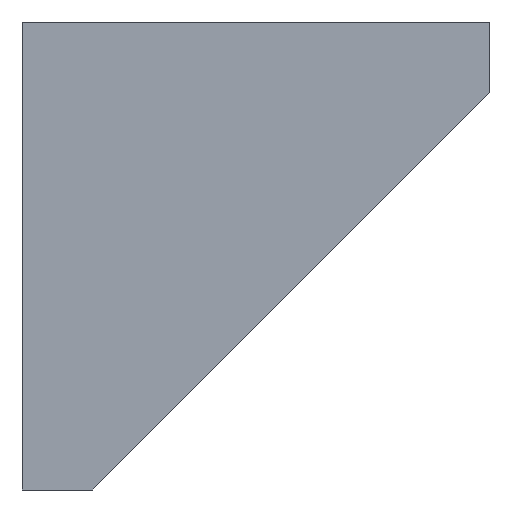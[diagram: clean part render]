
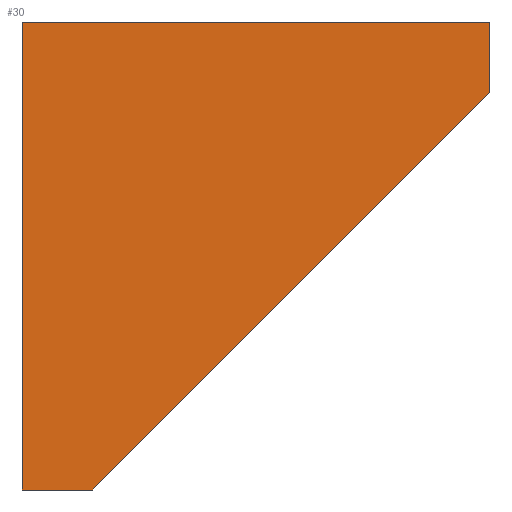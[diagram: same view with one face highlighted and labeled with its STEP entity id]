
A CAD part, left-side view. The second image highlights one B-rep face of the part: STEP entity #30.
In plain terms, the highlighted planar face has unit normal (-1, 0, 0) as drawn and (1, 0, 0) by its records, which use the part's own axes.
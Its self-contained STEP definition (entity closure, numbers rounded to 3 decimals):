
#30=ADVANCED_FACE('',(#54),#616,.T.);
#54=FACE_OUTER_BOUND('',#75,.T.);
#75=EDGE_LOOP('',(#125,#126,#127,#128,#129));
#125=ORIENTED_EDGE('',*,*,#418,.F.);
#126=ORIENTED_EDGE('',*,*,#424,.F.);
#127=ORIENTED_EDGE('',*,*,#433,.F.);
#128=ORIENTED_EDGE('',*,*,#436,.F.);
#129=ORIENTED_EDGE('',*,*,#438,.F.);
#198=PCURVE('',#608,#286);
#204=PCURVE('',#609,#292);
#214=PCURVE('',#610,#302);
#218=PCURVE('',#611,#306);
#222=PCURVE('',#612,#310);
#231=PCURVE('',#616,#319);
#232=PCURVE('',#616,#320);
#233=PCURVE('',#616,#321);
#234=PCURVE('',#616,#322);
#235=PCURVE('',#616,#323);
#286=DEFINITIONAL_REPRESENTATION('',(#465),#1319);
#292=DEFINITIONAL_REPRESENTATION('',(#475),#1319);
#302=DEFINITIONAL_REPRESENTATION('',(#490),#1319);
#306=DEFINITIONAL_REPRESENTATION('',(#497),#1319);
#310=DEFINITIONAL_REPRESENTATION('',(#503),#1319);
#319=DEFINITIONAL_REPRESENTATION('',(#515),#1319);
#320=DEFINITIONAL_REPRESENTATION('',(#516),#1319);
#321=DEFINITIONAL_REPRESENTATION('',(#517),#1319);
#322=DEFINITIONAL_REPRESENTATION('',(#518),#1319);
#323=DEFINITIONAL_REPRESENTATION('',(#519),#1319);
#374=SURFACE_CURVE('',#464,(#198,#231),.PCURVE_S1.);
#380=SURFACE_CURVE('',#474,(#204,#232),.PCURVE_S1.);
#389=SURFACE_CURVE('',#489,(#214,#233),.PCURVE_S1.);
#392=SURFACE_CURVE('',#496,(#218,#234),.PCURVE_S1.);
#394=SURFACE_CURVE('',#502,(#222,#235),.PCURVE_S1.);
#418=EDGE_CURVE('',#576,#577,#374,.T.);
#424=EDGE_CURVE('',#579,#576,#380,.T.);
#433=EDGE_CURVE('',#581,#579,#389,.T.);
#436=EDGE_CURVE('',#583,#581,#392,.T.);
#438=EDGE_CURVE('',#577,#583,#394,.T.);
#464=B_SPLINE_CURVE_WITH_KNOTS('',1,(#819,#820),.UNSPECIFIED.,.F.,.F.,(2,
2),(-30.,0.),.UNSPECIFIED.);
#465=B_SPLINE_CURVE_WITH_KNOTS('',1,(#821,#822),.UNSPECIFIED.,.F.,.F.,(2,
2),(-30.,0.),.UNSPECIFIED.);
#474=B_SPLINE_CURVE_WITH_KNOTS('',1,(#883,#884),.UNSPECIFIED.,.F.,.F.,(2,
2),(-60.,-30.),.UNSPECIFIED.);
#475=B_SPLINE_CURVE_WITH_KNOTS('',1,(#885,#886),.UNSPECIFIED.,.F.,.F.,(2,
2),(-60.,-30.),.UNSPECIFIED.);
#489=B_SPLINE_CURVE_WITH_KNOTS('',1,(#1001,#1002),.UNSPECIFIED.,.F.,.F.,
(2,2),(-64.5,-60.),.UNSPECIFIED.);
#490=B_SPLINE_CURVE_WITH_KNOTS('',1,(#1003,#1004),.UNSPECIFIED.,.F.,.F.,
(2,2),(-64.5,-60.),.UNSPECIFIED.);
#496=B_SPLINE_CURVE_WITH_KNOTS('',1,(#1015,#1016),.UNSPECIFIED.,.F.,.F.,
(2,2),(-100.562,-64.5),.UNSPECIFIED.);
#497=B_SPLINE_CURVE_WITH_KNOTS('',1,(#1017,#1018),.UNSPECIFIED.,.F.,.F.,
(2,2),(-100.562,-64.5),.UNSPECIFIED.);
#502=B_SPLINE_CURVE_WITH_KNOTS('',1,(#1027,#1028),.UNSPECIFIED.,.F.,.F.,
(2,2),(-105.062,-100.562),.UNSPECIFIED.);
#503=B_SPLINE_CURVE_WITH_KNOTS('',1,(#1029,#1030),.UNSPECIFIED.,.F.,.F.,
(2,2),(-105.062,-100.562),.UNSPECIFIED.);
#515=B_SPLINE_CURVE_WITH_KNOTS('',1,(#1053,#1054),.UNSPECIFIED.,.F.,.F.,
(2,2),(-30.,0.),.UNSPECIFIED.);
#516=B_SPLINE_CURVE_WITH_KNOTS('',1,(#1055,#1056),.UNSPECIFIED.,.F.,.F.,
(2,2),(-60.,-30.),.UNSPECIFIED.);
#517=B_SPLINE_CURVE_WITH_KNOTS('',1,(#1057,#1058),.UNSPECIFIED.,.F.,.F.,
(2,2),(-64.5,-60.),.UNSPECIFIED.);
#518=B_SPLINE_CURVE_WITH_KNOTS('',1,(#1059,#1060),.UNSPECIFIED.,.F.,.F.,
(2,2),(-100.562,-64.5),.UNSPECIFIED.);
#519=B_SPLINE_CURVE_WITH_KNOTS('',1,(#1061,#1062),.UNSPECIFIED.,.F.,.F.,
(2,2),(-105.062,-100.562),.UNSPECIFIED.);
#576=VERTEX_POINT('',#785);
#577=VERTEX_POINT('',#786);
#579=VERTEX_POINT('',#788);
#581=VERTEX_POINT('',#790);
#583=VERTEX_POINT('',#792);
#608=PLANE('',#639);
#609=PLANE('',#640);
#610=PLANE('',#641);
#611=PLANE('',#642);
#612=PLANE('',#643);
#616=PLANE('',#647);
#639=AXIS2_PLACEMENT_3D('',#664,#652,$);
#640=AXIS2_PLACEMENT_3D('',#665,#653,$);
#641=AXIS2_PLACEMENT_3D('',#666,#654,$);
#642=AXIS2_PLACEMENT_3D('',#667,#655,$);
#643=AXIS2_PLACEMENT_3D('',#668,#656,$);
#647=AXIS2_PLACEMENT_3D('',#780,#660,$);
#652=DIRECTION('',(0.,-1.,0.));
#653=DIRECTION('',(0.,0.,-1.));
#654=DIRECTION('',(0.,1.,0.));
#655=DIRECTION('',(0.,0.707,0.707));
#656=DIRECTION('',(0.,0.,1.));
#660=DIRECTION('',(1.,0.,0.));
#664=CARTESIAN_POINT('',(-735.,15.,-7.));
#665=CARTESIAN_POINT('',(-735.,15.,23.));
#666=CARTESIAN_POINT('',(-735.,-15.,23.));
#667=CARTESIAN_POINT('',(-735.,-15.,18.5));
#668=CARTESIAN_POINT('',(-735.,10.5,-7.));
#780=CARTESIAN_POINT('',(-755.,18.75,-10.75));
#785=CARTESIAN_POINT('',(-755.,15.,23.));
#786=CARTESIAN_POINT('',(-755.,15.,-7.));
#788=CARTESIAN_POINT('',(-755.,-15.,23.));
#790=CARTESIAN_POINT('',(-755.,-15.,18.5));
#792=CARTESIAN_POINT('',(-755.,10.5,-7.));
#819=CARTESIAN_POINT('',(-755.,15.,23.));
#820=CARTESIAN_POINT('',(-755.,15.,-7.));
#821=CARTESIAN_POINT('',(30.,20.));
#822=CARTESIAN_POINT('',(0.,20.));
#883=CARTESIAN_POINT('',(-755.,-15.,23.));
#884=CARTESIAN_POINT('',(-755.,15.,23.));
#885=CARTESIAN_POINT('',(60.,20.));
#886=CARTESIAN_POINT('',(30.,20.));
#1001=CARTESIAN_POINT('',(-755.,-15.,18.5));
#1002=CARTESIAN_POINT('',(-755.,-15.,23.));
#1003=CARTESIAN_POINT('',(64.5,20.));
#1004=CARTESIAN_POINT('',(60.,20.));
#1015=CARTESIAN_POINT('',(-755.,10.5,-7.));
#1016=CARTESIAN_POINT('',(-755.,-15.,18.5));
#1017=CARTESIAN_POINT('',(100.562,20.));
#1018=CARTESIAN_POINT('',(64.5,20.));
#1027=CARTESIAN_POINT('',(-755.,15.,-7.));
#1028=CARTESIAN_POINT('',(-755.,10.5,-7.));
#1029=CARTESIAN_POINT('',(105.062,20.));
#1030=CARTESIAN_POINT('',(100.562,20.));
#1053=CARTESIAN_POINT('',(30.,0.));
#1054=CARTESIAN_POINT('',(0.,0.));
#1055=CARTESIAN_POINT('',(30.,30.));
#1056=CARTESIAN_POINT('',(30.,0.));
#1057=CARTESIAN_POINT('',(25.5,30.));
#1058=CARTESIAN_POINT('',(30.,30.));
#1059=CARTESIAN_POINT('',(0.,4.5));
#1060=CARTESIAN_POINT('',(25.5,30.));
#1061=CARTESIAN_POINT('',(0.,0.));
#1062=CARTESIAN_POINT('',(0.,4.5));
#1319=(
GEOMETRIC_REPRESENTATION_CONTEXT(2)
PARAMETRIC_REPRESENTATION_CONTEXT()
REPRESENTATION_CONTEXT('pspace','')
);
